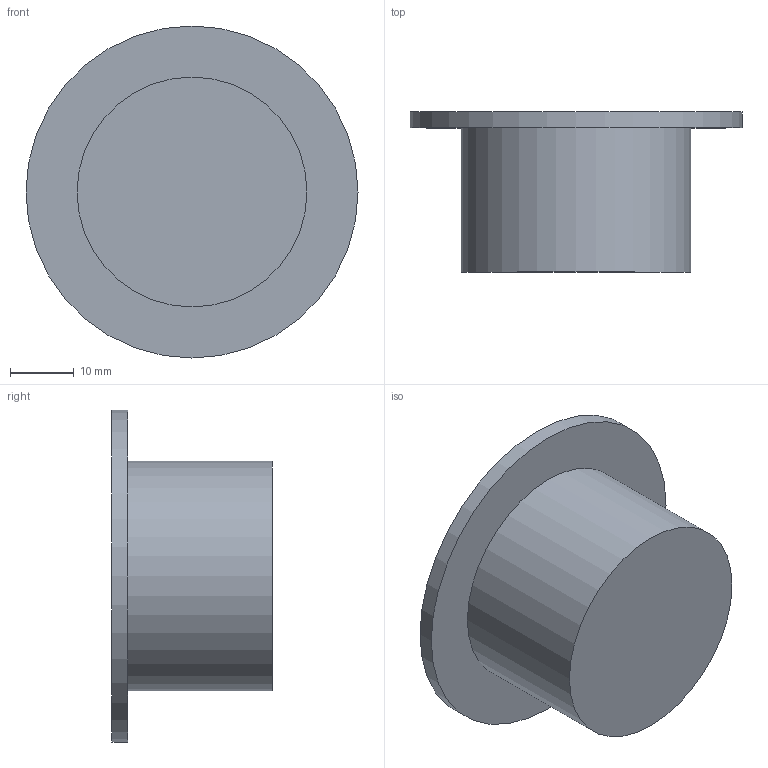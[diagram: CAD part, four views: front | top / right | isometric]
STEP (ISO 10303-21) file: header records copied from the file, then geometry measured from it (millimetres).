
FILE_DESCRIPTION(('Open CASCADE Model'),'2;1');
FILE_NAME('Open CASCADE Shape Model','2026-09-29T12:48:04',('Author'),( 'Open CASCADE'),'Open CASCADE STEP processor 7.9','Open CASCADE 7.9' ,'Unknown');
FILE_SCHEMA(('AUTOMOTIVE_DESIGN { 1 0 10303 214 1 1 1 1 }'));
Length unit declared in the file: millimetre
Products named in the file (1): Open CASCADE STEP translator 7.9 31
Bounding box: 52 x 25.1 x 52 mm (x, y, z)
Volume: 28313.3 mm3; surface area: 7211.8 mm2
Topology: 1 solids, 1 shells, 5 faces, 6 edges, 4 vertices
Faces by surface type: plane 3, cylinder 2
Full cylindrical faces by diameter (mm): 36 x1, 52 x1
Entity records: 192 total; most frequent: DIRECTION 34, CARTESIAN_POINT 28, ORIENTED_EDGE 12, PCURVE 12, DEFINITIONAL_REPRESENTATION 12, AXIS2_PLACEMENT_3D 10, LINE 10, VECTOR 10
